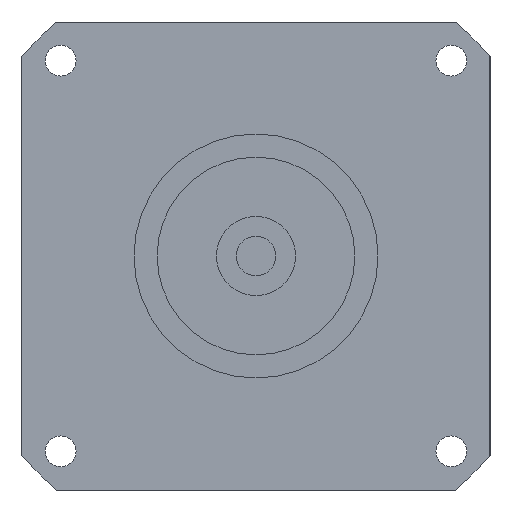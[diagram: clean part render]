
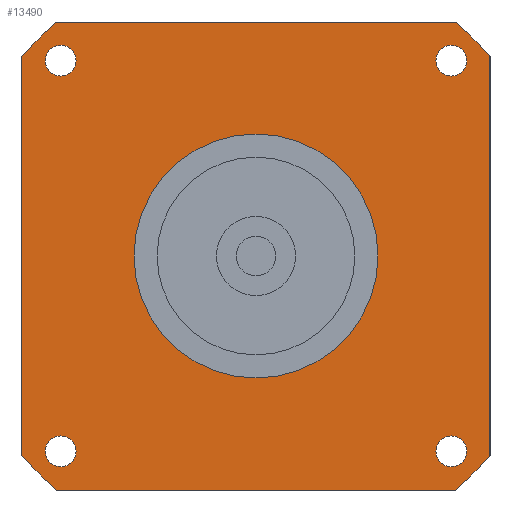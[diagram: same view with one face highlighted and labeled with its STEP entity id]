
A CAD part, left-side view. The second image highlights one B-rep face of the part: STEP entity #13490.
In plain terms, the highlighted planar face has unit normal (-1, 0, 0) as drawn and (0, 0, -1) by its records, which use the part's own axes.
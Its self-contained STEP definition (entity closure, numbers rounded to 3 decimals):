
#8680=CARTESIAN_POINT('',(53.25,45.436,-41.2));
#8690=VERTEX_POINT('',#8680);
#8740=CARTESIAN_POINT('',(53.25,53.25,-41.2));
#8750=DIRECTION('',(0.,-1.,0.));
#8760=VECTOR('',#8750,1000.);
#8770=LINE('',#8740,#8760);
#8780=CARTESIAN_POINT('',(53.25,-45.436,-41.2));
#8790=VERTEX_POINT('',#8780);
#8800=EDGE_CURVE('',#8690,#8790,#8770,.T.);
#9080=CARTESIAN_POINT('',(-45.436,53.25,-41.2));
#9090=VERTEX_POINT('',#9080);
#9270=CARTESIAN_POINT('',(-53.25,45.436,-41.2));
#9280=VERTEX_POINT('',#9270);
#9310=CARTESIAN_POINT('',(0.,0.,
-41.2));
#9320=DIRECTION('',(0.,0.,-1.));
#9330=DIRECTION('',(1.,0.,0.));
#9340=AXIS2_PLACEMENT_3D('',#9310,#9320,#9330);
#9350=CIRCLE('',#9340,70.);
#9360=EDGE_CURVE('',#9280,#9090,#9350,.T.);
#12010=CARTESIAN_POINT('',(-40.949,44.449,-41.2));
#12020=VERTEX_POINT('',#12010);
#12050=CARTESIAN_POINT('',(-44.449,44.449,-41.2));
#12060=DIRECTION('',(0.,0.,-1.));
#12070=DIRECTION('',(-1.,0.,0.));
#12080=AXIS2_PLACEMENT_3D('',#12050,#12060,#12070);
#12090=CIRCLE('',#12080,3.5);
#12100=CARTESIAN_POINT('',(-47.949,44.449,-41.2));
#12110=VERTEX_POINT('',#12100);
#12120=EDGE_CURVE('',#12110,#12020,#12090,.T.);
#12240=CARTESIAN_POINT('',(53.25,53.25,-41.2));
#12250=DIRECTION('',(0.,0.,-1.));
#12260=DIRECTION('',(1.,0.,0.));
#12270=AXIS2_PLACEMENT_3D('',#12240,#12250,#12260);
#12280=PLANE('',#12270);
#12290=ORIENTED_EDGE('',*,*,#12120,.F.);
#12300=EDGE_CURVE('',#12020,#12110,#12090,.T.);
#12310=ORIENTED_EDGE('',*,*,#12300,.F.);
#12320=EDGE_LOOP('',(#12310,#12290));
#12330=FACE_BOUND('',#12320,.T.);
#12340=CARTESIAN_POINT('',(44.449,44.449,-41.2));
#12350=DIRECTION('',(0.,0.,-1.));
#12360=DIRECTION('',(0.,1.,0.));
#12370=AXIS2_PLACEMENT_3D('',#12340,#12350,#12360);
#12380=CIRCLE('',#12370,3.5);
#12390=CARTESIAN_POINT('',(44.449,47.949,-41.2));
#12400=VERTEX_POINT('',#12390);
#12410=CARTESIAN_POINT('',(44.449,40.949,-41.2));
#12420=VERTEX_POINT('',#12410);
#12430=EDGE_CURVE('',#12400,#12420,#12380,.T.);
#12440=ORIENTED_EDGE('',*,*,#12430,.F.);
#12450=EDGE_CURVE('',#12420,#12400,#12380,.T.);
#12460=ORIENTED_EDGE('',*,*,#12450,.F.);
#12470=EDGE_LOOP('',(#12460,#12440));
#12480=FACE_BOUND('',#12470,.T.);
#12490=CARTESIAN_POINT('',(0.,0.,
-41.2));
#12500=DIRECTION('',(0.,0.,1.));
#12510=DIRECTION('',(0.,1.,0.));
#12520=AXIS2_PLACEMENT_3D('',#12490,#12500,#12510);
#12530=CIRCLE('',#12520,27.76);
#12540=CARTESIAN_POINT('',(-27.76,0.,-41.2));
#12550=VERTEX_POINT('',#12540);
#12560=CARTESIAN_POINT('',(27.76,0.,-41.2));
#12570=VERTEX_POINT('',#12560);
#12580=EDGE_CURVE('',#12550,#12570,#12530,.T.);
#12590=ORIENTED_EDGE('',*,*,#12580,.T.);
#12600=CARTESIAN_POINT('',(0.,27.76,-41.2));
#12610=VERTEX_POINT('',#12600);
#12620=EDGE_CURVE('',#12610,#12550,#12530,.T.);
#12630=ORIENTED_EDGE('',*,*,#12620,.T.);
#12640=EDGE_CURVE('',#12570,#12610,#12530,.T.);
#12650=ORIENTED_EDGE('',*,*,#12640,.T.);
#12660=EDGE_LOOP('',(#12650,#12630,#12590));
#12670=FACE_BOUND('',#12660,.T.);
#12680=CARTESIAN_POINT('',(44.449,-44.449,-41.2));
#12690=DIRECTION('',(0.,0.,-1.));
#12700=DIRECTION('',(1.,0.,0.));
#12710=AXIS2_PLACEMENT_3D('',#12680,#12690,#12700);
#12720=CIRCLE('',#12710,3.5);
#12730=CARTESIAN_POINT('',(47.949,-44.449,-41.2));
#12740=VERTEX_POINT('',#12730);
#12750=CARTESIAN_POINT('',(40.949,-44.449,-41.2));
#12760=VERTEX_POINT('',#12750);
#12770=EDGE_CURVE('',#12740,#12760,#12720,.T.);
#12780=ORIENTED_EDGE('',*,*,#12770,.F.);
#12790=EDGE_CURVE('',#12760,#12740,#12720,.T.);
#12800=ORIENTED_EDGE('',*,*,#12790,.F.);
#12810=EDGE_LOOP('',(#12800,#12780));
#12820=FACE_BOUND('',#12810,.T.);
#12830=CARTESIAN_POINT('',(-44.449,-44.449,-41.2));
#12840=DIRECTION('',(0.,0.,-1.));
#12850=DIRECTION('',(0.,-1.,0.));
#12860=AXIS2_PLACEMENT_3D('',#12830,#12840,#12850);
#12870=CIRCLE('',#12860,3.5);
#12880=CARTESIAN_POINT('',(-44.449,-47.949,-41.2));
#12890=VERTEX_POINT('',#12880);
#12900=CARTESIAN_POINT('',(-44.449,-40.949,-41.2));
#12910=VERTEX_POINT('',#12900);
#12920=EDGE_CURVE('',#12890,#12910,#12870,.T.);
#12930=ORIENTED_EDGE('',*,*,#12920,.F.);
#12940=EDGE_CURVE('',#12910,#12890,#12870,.T.);
#12950=ORIENTED_EDGE('',*,*,#12940,.F.);
#12960=EDGE_LOOP('',(#12950,#12930));
#12970=FACE_BOUND('',#12960,.T.);
#12980=CARTESIAN_POINT('',(-53.25,53.25,-41.2));
#12990=DIRECTION('',(1.,0.,0.));
#13000=VECTOR('',#12990,1000.);
#13010=LINE('',#12980,#13000);
#13020=CARTESIAN_POINT('',(45.436,53.25,-41.2));
#13030=VERTEX_POINT('',#13020);
#13040=EDGE_CURVE('',#9090,#13030,#13010,.T.);
#13050=ORIENTED_EDGE('',*,*,#13040,.T.);
#13060=ORIENTED_EDGE('',*,*,#9360,.T.);
#13070=CARTESIAN_POINT('',(-53.25,-53.25,-41.2));
#13080=DIRECTION('',(0.,1.,0.));
#13090=VECTOR('',#13080,1000.);
#13100=LINE('',#13070,#13090);
#13110=CARTESIAN_POINT('',(-53.25,-45.436,-41.2));
#13120=VERTEX_POINT('',#13110);
#13130=EDGE_CURVE('',#13120,#9280,#13100,.T.);
#13140=ORIENTED_EDGE('',*,*,#13130,.T.);
#13150=CARTESIAN_POINT('',(0.,0.,
-41.2));
#13160=DIRECTION('',(0.,0.,-1.));
#13170=DIRECTION('',(1.,0.,0.));
#13180=AXIS2_PLACEMENT_3D('',#13150,#13160,#13170);
#13190=CIRCLE('',#13180,70.);
#13200=CARTESIAN_POINT('',(-45.436,-53.25,-41.2));
#13210=VERTEX_POINT('',#13200);
#13220=EDGE_CURVE('',#13210,#13120,#13190,.T.);
#13230=ORIENTED_EDGE('',*,*,#13220,.T.);
#13240=CARTESIAN_POINT('',(53.25,-53.25,-41.2));
#13250=DIRECTION('',(-1.,0.,0.));
#13260=VECTOR('',#13250,1000.);
#13270=LINE('',#13240,#13260);
#13280=CARTESIAN_POINT('',(45.436,-53.25,-41.2));
#13290=VERTEX_POINT('',#13280);
#13300=EDGE_CURVE('',#13290,#13210,#13270,.T.);
#13310=ORIENTED_EDGE('',*,*,#13300,.T.);
#13320=CARTESIAN_POINT('',(0.,0.,
-41.2));
#13330=DIRECTION('',(0.,0.,-1.));
#13340=DIRECTION('',(1.,0.,0.));
#13350=AXIS2_PLACEMENT_3D('',#13320,#13330,#13340);
#13360=CIRCLE('',#13350,70.);
#13370=EDGE_CURVE('',#8790,#13290,#13360,.T.);
#13380=ORIENTED_EDGE('',*,*,#13370,.T.);
#13390=ORIENTED_EDGE('',*,*,#8800,.T.);
#13400=CARTESIAN_POINT('',(0.,0.,
-41.2));
#13410=DIRECTION('',(0.,0.,-1.));
#13420=DIRECTION('',(1.,0.,0.));
#13430=AXIS2_PLACEMENT_3D('',#13400,#13410,#13420);
#13440=CIRCLE('',#13430,70.);
#13450=EDGE_CURVE('',#13030,#8690,#13440,.T.);
#13460=ORIENTED_EDGE('',*,*,#13450,.T.);
#13470=EDGE_LOOP('',(#13460,#13390,#13380,#13310,#13230,#13140,#13060,
#13050));
#13480=FACE_OUTER_BOUND('',#13470,.T.);
#13490=ADVANCED_FACE('',(#12330,#12480,#12670,#12820,#12970,#13480),
#12280,.T.);
